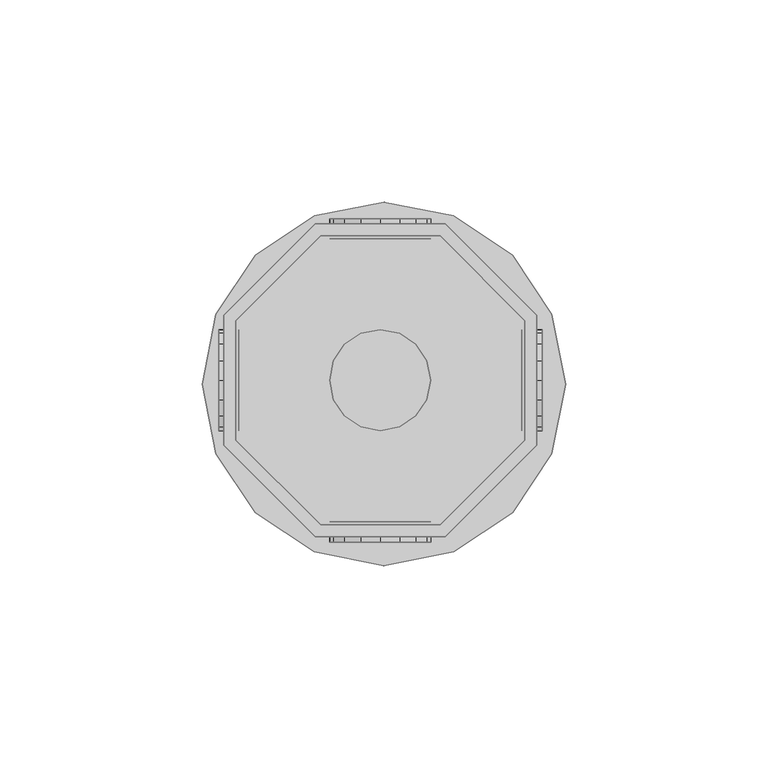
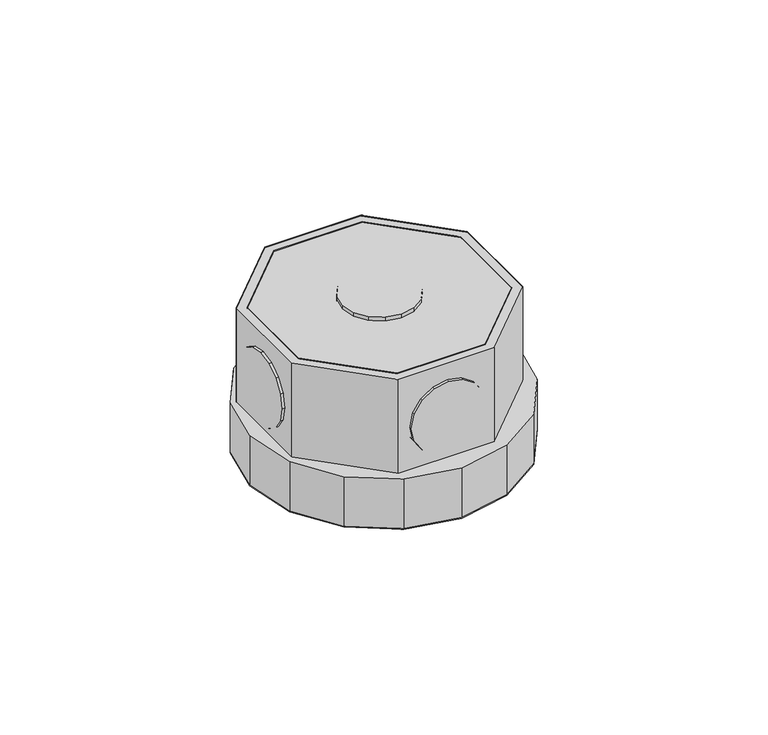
"""IFC4 building model written with IfcOpenShell, lengths in millimetres: light fixture geometry,  213330 :  213330."""

from ifc_helpers import new_model, si_unit, origin, place, context, project, spatial, triangles, source, transform, mapped, element, save


def light_fixture_b5445e0b(model_context):
    return source(origin(), model_context, "Body", "Tessellation", [
        triangles([(19800.0007324, 18755.5005341, 2924.5999741), (19770.4002136, 18755.5005341, 2975.400071), (19770.4002136, 18755.5005341, 2924.5999741), (19800.0007324, 18755.5005341, 2975.400071), (19801.2006592, 18681.0004303, 2924.5999741), (19769.100293, 18681.0004303, 2975.400071), (19769.100293, 18681.0004303, 2924.5999741), (19801.2006592, 18681.0004303, 2975.400071), (19749.3991699, 18734.4994904, 2975.400071), (19749.3991699, 18734.4994904, 2924.5999741), (19823.8992737, 18703.7002075, 2924.5999741), (19823.8992737, 18703.7002075, 2975.400071), (19749.3991699, 18704.9001343, 2975.400071), (19749.3991699, 18704.9001343, 2924.5999741), (19823.8992737, 18735.8005737, 2924.5999741), (19823.8992737, 18735.8005737, 2975.400071), (19770.4002136, 18684.0002472, 2975.400071), (19770.4002136, 18684.0002472, 2924.5999741), (19801.2006592, 18758.500351, 2924.5999741), (19801.2006592, 18758.500351, 2975.400071), (19800.0007324, 18684.0002472, 2924.5999741), (19800.0007324, 18684.0002472, 2975.400071), (19769.100293, 18758.500351, 2975.400071), (19769.100293, 18758.500351, 2924.5999741), (19820.8994568, 18704.9001343, 2924.5999741), (19820.8994568, 18704.9001343, 2975.400071), (19746.399353, 18735.8005737, 2975.400071), (19746.399353, 18735.8005737, 2924.5999741), (19746.399353, 18703.7002075, 2975.400071), (19820.8994568, 18734.4994904, 2975.400071), (19820.8994568, 18734.4994904, 2924.5999741), (19746.399353, 18703.7002075, 2924.5999741), (19749.3991699, 18704.9001343, 2972.3999634), (19770.4002136, 18684.0002472, 2972.3999634), (19800.0007324, 18684.0002472, 2972.3999634), (19820.8994568, 18704.9001343, 2972.3999634), (19820.8994568, 18734.4994904, 2972.3999634), (19800.0007324, 18755.5005341, 2972.3999634), (19770.4002136, 18755.5005341, 2972.3999634), (19749.3991699, 18734.4994904, 2972.3999634), (19746.399353, 18735.8005737, 2942.4000504), (19769.100293, 18758.500351, 2942.4000504), (19801.2006592, 18758.500351, 2942.4000504), (19823.8992737, 18735.8005737, 2942.4000504), (19823.8992737, 18703.7002075, 2942.4000504), (19801.2006592, 18681.0004303, 2942.4000504), (19769.100293, 18681.0004303, 2942.4000504), (19746.399353, 18703.7002075, 2942.4000504), (19768.8003113, 18677.2994934, 2942.4000504), (19744.499469, 18701.6003357, 2942.4000504), (19754.198877, 18687.0000641, 2942.4000504), (19741.0996765, 18718.8004486, 2942.4000504), (19744.499469, 18736.1005554, 2942.4000504), (19754.198877, 18750.6996643, 2942.4000504), (19768.8003113, 18760.400235, 2942.4000504), (19786.0992554, 18763.8000275, 2942.4000504), (19803.300531, 18760.400235, 2942.4000504), (19827.5990479, 18736.1005554, 2942.4000504), (19817.8996399, 18750.6996643, 2942.4000504), (19786.0992554, 18673.799707, 2942.4000504), (19803.300531, 18677.2994934, 2942.4000504), (19817.8996399, 18687.0000641, 2942.4000504), (19827.5990479, 18701.6003357, 2942.4000504), (19831.1011597, 18718.8004486, 2942.4000504), (19744.499469, 18701.6003357, 2924.5999741), (19768.8003113, 18677.2994934, 2924.5999741), (19754.198877, 18687.0000641, 2924.5999741), (19741.0996765, 18718.8004486, 2924.5999741), (19744.499469, 18736.1005554, 2924.5999741), (19754.198877, 18750.6996643, 2924.5999741), (19768.8003113, 18760.400235, 2924.5999741), (19786.0992554, 18763.8000275, 2924.5999741), (19803.300531, 18760.400235, 2924.5999741), (19827.5990479, 18736.1005554, 2924.5999741), (19817.8996399, 18750.6996643, 2924.5999741), (19786.0992554, 18673.799707, 2924.5999741), (19803.300531, 18677.2994934, 2924.5999741), (19817.8996399, 18687.0000641, 2924.5999741), (19827.5990479, 18701.6003357, 2924.5999741), (19831.1011597, 18718.8004486, 2924.5999741), (19773.6000183, 18759.7002777, 2952.6000092), (19780.3996033, 18759.7002777, 2945.9001274), (19776.2998535, 18759.7002777, 2948.5999626), (19772.7000732, 18759.7002777, 2957.4000069), (19785.1993103, 18759.7002777, 2944.8998978), (19773.6000183, 18759.7002777, 2962.2000046), (19789.9990173, 18759.7002777, 2945.9001274), (19776.2998535, 18759.7002777, 2966.2000511), (19794.0010986, 18759.7002777, 2948.5999626), (19780.3996033, 18759.7002777, 2968.8998863), (19796.7009338, 18759.7002777, 2952.6000092), (19785.1993103, 18759.7002777, 2969.900116), (19797.7008728, 18759.7002777, 2957.4000069), (19789.9990173, 18759.7002777, 2968.8998863), (19796.7009338, 18759.7002777, 2962.2000046), (19794.0010986, 18759.7002777, 2966.2000511), (19780.3996033, 18754.6994202, 2945.9001274), (19773.6000183, 18754.6994202, 2952.6000092), (19776.2998535, 18754.6994202, 2948.5999626), (19785.1993103, 18754.6994202, 2944.8998978), (19772.7000732, 18754.6994202, 2957.4000069), (19789.9990173, 18754.6994202, 2945.9001274), (19773.6000183, 18754.6994202, 2962.2000046), (19794.0010986, 18754.6994202, 2948.5999626), (19776.2998535, 18754.6994202, 2966.2000511), (19780.3996033, 18754.6994202, 2968.8998863), (19796.7009338, 18754.6994202, 2952.6000092), (19785.1993103, 18754.6994202, 2969.900116), (19797.7008728, 18754.6994202, 2957.4000069), (19789.9990173, 18754.6994202, 2968.8998863), (19796.7009338, 18754.6994202, 2962.2000046), (19794.0010986, 18754.6994202, 2966.2000511), (19773.6000183, 18684.7002045, 2952.6000092), (19780.3996033, 18684.7002045, 2945.9001274), (19776.2998535, 18684.7002045, 2948.5999626), (19772.7000732, 18684.7002045, 2957.4000069), (19785.1993103, 18684.7002045, 2944.8998978), (19773.6000183, 18684.7002045, 2962.2000046), (19789.9990173, 18684.7002045, 2945.9001274), (19776.2998535, 18684.7002045, 2966.2000511), (19794.0010986, 18684.7002045, 2948.5999626), (19780.3996033, 18684.7002045, 2968.8998863), (19796.7009338, 18684.7002045, 2952.6000092), (19785.1993103, 18684.7002045, 2969.900116), (19797.7008728, 18684.7002045, 2957.4000069), (19789.9990173, 18684.7002045, 2968.8998863), (19796.7009338, 18684.7002045, 2962.2000046), (19794.0010986, 18684.7002045, 2966.2000511), (19780.3996033, 18679.7005096, 2945.9001274), (19773.6000183, 18679.7005096, 2952.6000092), (19776.2998535, 18679.7005096, 2948.5999626), (19785.1993103, 18679.7005096, 2944.8998978), (19772.7000732, 18679.7005096, 2957.4000069), (19789.9990173, 18679.7005096, 2945.9001274), (19773.6000183, 18679.7005096, 2962.2000046), (19794.0010986, 18679.7005096, 2948.5999626), (19776.2998535, 18679.7005096, 2966.2000511), (19780.3996033, 18679.7005096, 2968.8998863), (19796.7009338, 18679.7005096, 2952.6000092), (19785.1993103, 18679.7005096, 2969.900116), (19797.7008728, 18679.7005096, 2957.4000069), (19789.9990173, 18679.7005096, 2968.8998863), (19796.7009338, 18679.7005096, 2962.2000046), (19794.0010986, 18679.7005096, 2966.2000511), (19750.1991211, 18714.8995239, 2945.9001274), (19750.1991211, 18708.1999329, 2952.6000092), (19750.1991211, 18710.8997681, 2948.5999626), (19750.1991211, 18719.7003937, 2944.8998978), (19750.1991211, 18707.1999939, 2957.4000069), (19750.1991211, 18724.5001007, 2945.9001274), (19750.1991211, 18708.1999329, 2962.2000046), (19750.1991211, 18728.5998505, 2948.5999626), (19750.1991211, 18710.8997681, 2966.2000511), (19750.1991211, 18714.8995239, 2968.8998863), (19750.1991211, 18731.2996857, 2952.6000092), (19750.1991211, 18719.7003937, 2969.900116), (19750.1991211, 18732.1996307, 2957.4000069), (19750.1991211, 18724.5001007, 2968.8998863), (19750.1991211, 18731.2996857, 2962.2000046), (19750.1991211, 18728.5998505, 2966.2000511), (19745.1994263, 18708.1999329, 2952.6000092), (19745.1994263, 18714.8995239, 2945.9001274), (19745.1994263, 18710.8997681, 2948.5999626), (19745.1994263, 18707.1999939, 2957.4000069), (19745.1994263, 18719.7003937, 2944.8998978), (19745.1994263, 18708.1999329, 2962.2000046), (19745.1994263, 18724.5001007, 2945.9001274), (19745.1994263, 18710.8997681, 2966.2000511), (19745.1994263, 18728.5998505, 2948.5999626), (19745.1994263, 18714.8995239, 2968.8998863), (19745.1994263, 18731.2996857, 2952.6000092), (19745.1994263, 18719.7003937, 2969.900116), (19745.1994263, 18732.1996307, 2957.4000069), (19745.1994263, 18724.5001007, 2968.8998863), (19745.1994263, 18731.2996857, 2962.2000046), (19745.1994263, 18728.5998505, 2966.2000511), (19825.1991943, 18714.8995239, 2945.9001274), (19825.1991943, 18708.1999329, 2952.6000092), (19825.1991943, 18710.8997681, 2948.5999626), (19825.1991943, 18719.7003937, 2944.8998978), (19825.1991943, 18707.1999939, 2957.4000069), (19825.1991943, 18724.5001007, 2945.9001274), (19825.1991943, 18708.1999329, 2962.2000046), (19825.1991943, 18728.5998505, 2948.5999626), (19825.1991943, 18710.8997681, 2966.2000511), (19825.1991943, 18714.8995239, 2968.8998863), (19825.1991943, 18731.2996857, 2952.6000092), (19825.1991943, 18719.7003937, 2969.900116), (19825.1991943, 18732.1996307, 2957.4000069), (19825.1991943, 18724.5001007, 2968.8998863), (19825.1991943, 18731.2996857, 2962.2000046), (19825.1991943, 18728.5998505, 2966.2000511), (19820.1994995, 18708.1999329, 2952.6000092), (19820.1994995, 18714.8995239, 2945.9001274), (19820.1994995, 18710.8997681, 2948.5999626), (19820.1994995, 18707.1999939, 2957.4000069), (19820.1994995, 18719.7003937, 2944.8998978), (19820.1994995, 18708.1999329, 2962.2000046), (19820.1994995, 18724.5001007, 2945.9001274), (19820.1994995, 18710.8997681, 2966.2000511), (19820.1994995, 18728.5998505, 2948.5999626), (19820.1994995, 18714.8995239, 2968.8998863), (19820.1994995, 18731.2996857, 2952.6000092), (19820.1994995, 18719.7003937, 2969.900116), (19820.1994995, 18732.1996307, 2957.4000069), (19820.1994995, 18724.5001007, 2968.8998863), (19820.1994995, 18731.2996857, 2962.2000046), (19820.1994995, 18728.5998505, 2966.2000511), (19780.3996033, 18708.1999329, 2976.9999733), (19773.6000183, 18714.8995239, 2976.9999733), (19776.2998535, 18710.8997681, 2976.9999733), (19772.7000732, 18719.7003937, 2976.9999733), (19785.1993103, 18707.1999939, 2976.9999733), (19773.6000183, 18724.5001007, 2976.9999733), (19789.9990173, 18708.1999329, 2976.9999733), (19776.2998535, 18728.5998505, 2976.9999733), (19794.0010986, 18710.8997681, 2976.9999733), (19780.3996033, 18731.2996857, 2976.9999733), (19796.7009338, 18714.8995239, 2976.9999733), (19785.1993103, 18732.1996307, 2976.9999733), (19797.7008728, 18719.7003937, 2976.9999733), (19789.9990173, 18731.2996857, 2976.9999733), (19796.7009338, 18724.5001007, 2976.9999733), (19794.0010986, 18728.5998505, 2976.9999733), (19773.6000183, 18714.8995239, 2971.9999878), (19780.3996033, 18708.1999329, 2971.9999878), (19776.2998535, 18710.8997681, 2971.9999878), (19772.7000732, 18719.7003937, 2971.9999878), (19785.1993103, 18707.1999939, 2971.9999878), (19773.6000183, 18724.5001007, 2971.9999878), (19789.9990173, 18708.1999329, 2971.9999878), (19776.2998535, 18728.5998505, 2971.9999878), (19794.0010986, 18710.8997681, 2971.9999878), (19780.3996033, 18731.2996857, 2971.9999878), (19796.7009338, 18714.8995239, 2971.9999878), (19785.1993103, 18732.1996307, 2971.9999878), (19797.7008728, 18719.7003937, 2971.9999878), (19789.9990173, 18731.2996857, 2971.9999878), (19796.7009338, 18724.5001007, 2971.9999878), (19794.0010986, 18728.5998505, 2971.9999878)], [[1, 2, 3], [2, 1, 4], [5, 6, 7], [6, 5, 8], [3, 9, 10], [9, 3, 2], [11, 8, 5], [8, 11, 12], [10, 13, 14], [13, 10, 9], [15, 12, 11], [12, 15, 16], [14, 17, 18], [17, 14, 13], [19, 16, 15], [16, 19, 20], [17, 21, 18], [21, 17, 22], [23, 19, 24], [19, 23, 20], [22, 25, 21], [25, 22, 26], [27, 24, 28], [24, 27, 23], [6, 13, 29], [29, 13, 27], [27, 13, 9], [27, 9, 23], [23, 9, 2], [23, 2, 4], [23, 4, 20], [20, 4, 30], [8, 17, 6], [6, 17, 13], [17, 8, 22], [12, 22, 8], [22, 12, 26], [30, 26, 12], [16, 30, 12], [20, 30, 16], [30, 1, 31], [1, 30, 4], [6, 32, 7], [32, 6, 29], [32, 14, 7], [28, 14, 32], [14, 28, 10], [24, 10, 28], [10, 24, 3], [1, 3, 24], [19, 1, 24], [31, 1, 19], [7, 18, 5], [14, 18, 7], [5, 18, 21], [5, 21, 11], [11, 21, 25], [11, 25, 31], [11, 31, 15], [15, 31, 19], [26, 31, 25], [31, 26, 30], [29, 28, 32], [28, 29, 27], [17, 33, 34], [33, 17, 13], [35, 17, 34], [17, 35, 22], [36, 22, 35], [22, 36, 26], [37, 26, 36], [26, 37, 30], [38, 30, 37], [30, 38, 4], [2, 38, 39], [38, 2, 4], [17, 9, 13], [9, 17, 22], [9, 22, 2], [2, 22, 26], [2, 26, 4], [4, 26, 30], [13, 40, 33], [40, 13, 9], [40, 34, 33], [35, 34, 40], [35, 40, 39], [35, 39, 36], [36, 39, 38], [36, 38, 37], [9, 39, 40], [39, 9, 2], [24, 41, 28], [41, 24, 42], [19, 42, 24], [42, 19, 43], [44, 19, 15], [19, 44, 43], [45, 15, 11], [15, 45, 44], [46, 11, 5], [11, 46, 45], [47, 5, 7], [5, 47, 46], [32, 47, 7], [47, 32, 48], [28, 48, 32], [48, 28, 41], [49, 50, 51], [48, 50, 49], [50, 48, 52], [41, 52, 48], [52, 41, 53], [53, 41, 54], [42, 54, 41], [54, 42, 55], [55, 42, 43], [55, 43, 56], [56, 43, 57], [57, 43, 44], [57, 44, 58], [57, 58, 59], [47, 49, 60], [49, 47, 48], [47, 60, 46], [61, 46, 60], [46, 61, 62], [46, 62, 45], [45, 62, 63], [44, 45, 63], [44, 63, 64], [44, 64, 58], [65, 66, 67], [66, 65, 32], [68, 32, 65], [32, 68, 28], [28, 68, 69], [70, 28, 69], [28, 70, 24], [71, 24, 70], [19, 24, 71], [19, 71, 72], [73, 19, 72], [19, 73, 15], [74, 15, 73], [74, 73, 75], [76, 66, 7], [32, 7, 66], [5, 76, 7], [76, 5, 77], [77, 5, 78], [11, 78, 5], [78, 11, 79], [79, 11, 15], [79, 15, 80], [80, 15, 74], [57, 75, 73], [75, 57, 59], [56, 73, 72], [73, 56, 57], [55, 72, 71], [72, 55, 56], [54, 71, 70], [71, 54, 55], [53, 70, 69], [70, 53, 54], [52, 69, 68], [69, 52, 53], [50, 68, 65], [68, 50, 52], [51, 65, 67], [65, 51, 50], [66, 51, 67], [51, 66, 49], [76, 49, 66], [49, 76, 60], [77, 60, 76], [60, 77, 61], [78, 61, 77], [61, 78, 62], [79, 62, 78], [62, 79, 63], [80, 63, 79], [63, 80, 64], [75, 58, 74], [58, 75, 59], [74, 64, 80], [64, 74, 58], [81, 82, 83], [82, 81, 84], [85, 82, 84], [85, 84, 86], [87, 85, 86], [87, 86, 88], [87, 88, 89], [89, 88, 90], [89, 90, 91], [91, 90, 92], [91, 92, 93], [93, 92, 94], [93, 94, 95], [95, 94, 96], [97, 98, 99], [98, 97, 100], [101, 98, 100], [101, 100, 102], [103, 101, 102], [103, 102, 104], [103, 104, 105], [105, 104, 106], [106, 104, 107], [106, 107, 108], [108, 107, 109], [108, 109, 110], [110, 109, 111], [110, 111, 112], [87, 104, 102], [104, 87, 89], [85, 102, 100], [102, 85, 87], [82, 100, 97], [100, 82, 85], [83, 97, 99], [97, 83, 82], [98, 83, 99], [83, 98, 81], [101, 81, 98], [81, 101, 84], [103, 84, 101], [84, 103, 86], [105, 86, 103], [86, 105, 88], [106, 88, 105], [88, 106, 90], [108, 90, 106], [90, 108, 92], [110, 92, 108], [92, 110, 94], [112, 94, 110], [94, 112, 96], [95, 112, 111], [112, 95, 96], [93, 111, 109], [111, 93, 95], [89, 107, 104], [107, 89, 91], [91, 109, 107], [109, 91, 93], [113, 114, 115], [114, 113, 116], [117, 114, 116], [117, 116, 118], [119, 117, 118], [119, 118, 120], [119, 120, 121], [121, 120, 122], [121, 122, 123], [123, 122, 124], [123, 124, 125], [125, 124, 126], [125, 126, 127], [127, 126, 128], [129, 130, 131], [130, 129, 132], [133, 130, 132], [133, 132, 134], [135, 133, 134], [135, 134, 136], [135, 136, 137], [137, 136, 138], [138, 136, 139], [138, 139, 140], [140, 139, 141], [140, 141, 142], [142, 141, 143], [142, 143, 144], [119, 136, 134], [136, 119, 121], [117, 134, 132], [134, 117, 119], [114, 132, 129], [132, 114, 117], [115, 129, 131], [129, 115, 114], [130, 115, 131], [115, 130, 113], [133, 113, 130], [113, 133, 116], [135, 116, 133], [116, 135, 118], [137, 118, 135], [118, 137, 120], [138, 120, 137], [120, 138, 122], [140, 122, 138], [122, 140, 124], [142, 124, 140], [124, 142, 126], [144, 126, 142], [126, 144, 128], [127, 144, 143], [144, 127, 128], [125, 143, 141], [143, 125, 127], [121, 139, 136], [139, 121, 123], [123, 141, 139], [141, 123, 125], [145, 146, 147], [146, 145, 148], [149, 146, 148], [149, 148, 150], [151, 149, 150], [151, 150, 152], [151, 152, 153], [153, 152, 154], [154, 152, 155], [154, 155, 156], [156, 155, 157], [156, 157, 158], [158, 157, 159], [158, 159, 160], [161, 162, 163], [162, 161, 164], [165, 162, 164], [165, 164, 166], [167, 165, 166], [167, 166, 168], [169, 167, 168], [169, 168, 170], [169, 170, 171], [171, 170, 172], [171, 172, 173], [173, 172, 174], [173, 174, 175], [175, 174, 176], [158, 176, 174], [176, 158, 160], [156, 174, 172], [174, 156, 158], [154, 172, 170], [172, 154, 156], [153, 170, 168], [170, 153, 154], [151, 168, 166], [168, 151, 153], [149, 166, 164], [166, 149, 151], [146, 164, 161], [164, 146, 149], [147, 161, 163], [161, 147, 146], [162, 147, 163], [147, 162, 145], [165, 145, 162], [145, 165, 148], [167, 148, 165], [148, 167, 150], [169, 150, 167], [150, 169, 152], [171, 152, 169], [152, 171, 155], [173, 155, 171], [155, 173, 157], [176, 159, 175], [159, 176, 160], [175, 157, 173], [157, 175, 159], [177, 178, 179], [178, 177, 180], [181, 178, 180], [181, 180, 182], [183, 181, 182], [183, 182, 184], [183, 184, 185], [185, 184, 186], [186, 184, 187], [186, 187, 188], [188, 187, 189], [188, 189, 190], [190, 189, 191], [190, 191, 192], [193, 194, 195], [194, 193, 196], [197, 194, 196], [197, 196, 198], [199, 197, 198], [199, 198, 200], [201, 199, 200], [201, 200, 202], [201, 202, 203], [203, 202, 204], [203, 204, 205], [205, 204, 206], [205, 206, 207], [207, 206, 208], [190, 208, 206], [208, 190, 192], [188, 206, 204], [206, 188, 190], [186, 204, 202], [204, 186, 188], [185, 202, 200], [202, 185, 186], [183, 200, 198], [200, 183, 185], [181, 198, 196], [198, 181, 183], [178, 196, 193], [196, 178, 181], [179, 193, 195], [193, 179, 178], [194, 179, 195], [179, 194, 177], [197, 177, 194], [177, 197, 180], [199, 180, 197], [180, 199, 182], [201, 182, 199], [182, 201, 184], [203, 184, 201], [184, 203, 187], [205, 187, 203], [187, 205, 189], [208, 191, 207], [191, 208, 192], [207, 189, 205], [189, 207, 191], [209, 210, 211], [212, 210, 209], [212, 209, 213], [214, 212, 213], [214, 213, 215], [216, 214, 215], [216, 215, 217], [216, 217, 218], [218, 217, 219], [218, 219, 220], [220, 219, 221], [220, 221, 222], [222, 221, 223], [222, 223, 224], [225, 226, 227], [226, 225, 228], [229, 226, 228], [229, 228, 230], [231, 229, 230], [231, 230, 232], [231, 232, 233], [233, 232, 234], [233, 234, 235], [235, 234, 236], [235, 236, 237], [237, 236, 238], [237, 238, 239], [239, 238, 240], [222, 240, 238], [240, 222, 224], [220, 238, 236], [238, 220, 222], [218, 236, 234], [236, 218, 220], [216, 234, 232], [234, 216, 218], [214, 232, 230], [232, 214, 216], [212, 230, 228], [230, 212, 214], [210, 228, 225], [228, 210, 212], [211, 225, 227], [225, 211, 210], [226, 211, 227], [211, 226, 209], [229, 209, 226], [209, 229, 213], [231, 213, 229], [213, 231, 215], [233, 215, 231], [215, 233, 217], [235, 217, 233], [217, 235, 219], [237, 219, 235], [219, 237, 221], [240, 223, 239], [223, 240, 224], [239, 221, 237], [221, 239, 223]], closed=False),
    ])


if __name__ == "__main__":
    model = new_model("IFC4")
    model_context = context("Model", 3, world=origin())
    ifc_project = project(units=[si_unit("LENGTHUNIT", "METRE", prefix="MILLI")], contexts=[model_context])
    site = spatial("IfcSite", under=ifc_project)
    building = spatial("IfcBuilding", under=site)
    placement = place(None, origin())
    light_fixture_shape = light_fixture_b5445e0b(model_context)
    element("IfcLightFixture", 1, ObjectType=" 213330 :  213330", at=placement, inside=building, context=model_context, shape_type="MappedRepresentation", body=[
        mapped(light_fixture_shape, transform((0.0, 0.0, 0.0), x_axis=(1.0, 0.0, 0.0), y_axis=(0.0, 1.0, 0.0), z_axis=(0.0, 0.0, 1.0))),
    ])
    save(model, "model.ifc")
